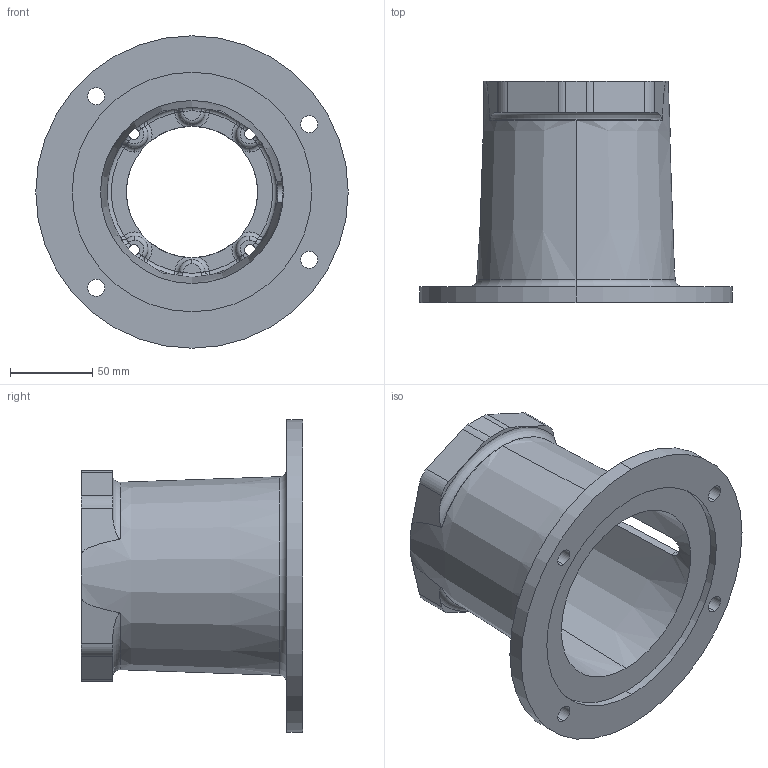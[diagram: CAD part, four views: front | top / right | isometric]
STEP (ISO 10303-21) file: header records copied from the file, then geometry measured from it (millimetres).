
FILE_DESCRIPTION (( 'STEP AP203' ), '1' );
FILE_NAME ('E5755080MS.STEP', '2014-11-03T15:38:56', ( '' ), ( '' ), 'SwSTEP 2.0', 'SolidWorks 2014', '' );
FILE_SCHEMA (( 'CONFIG_CONTROL_DESIGN' ));
Length unit declared in the file: inch
Products named in the file (1): E5755080MS
Bounding box: 190.5 x 134.87 x 190.5 mm (x, y, z)
Volume: 441315.6 mm3; surface area: 144009.4 mm2
Topology: 1 solids, 1 shells, 178 faces, 467 edges, 277 vertices
Faces by surface type: torus 52, cylinder 32, plane 30, sphere 24, bspline 24, cone 16
Entity records: 7303 total; most frequent: CARTESIAN_POINT 2931, DIRECTION 956, ORIENTED_EDGE 910, EDGE_CURVE 455, AXIS2_PLACEMENT_3D 444, CIRCLE 289, VERTEX_POINT 277, EDGE_LOOP 196
